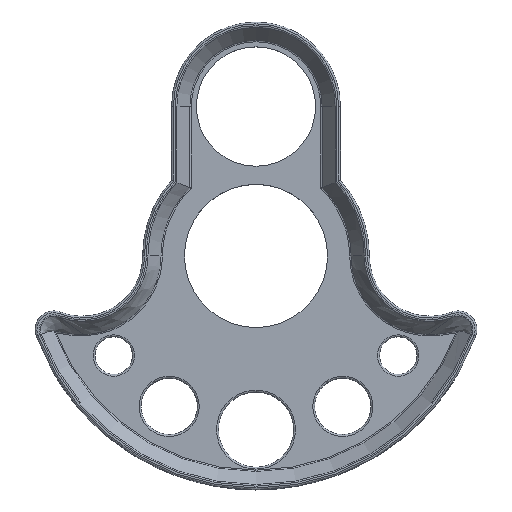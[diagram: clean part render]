
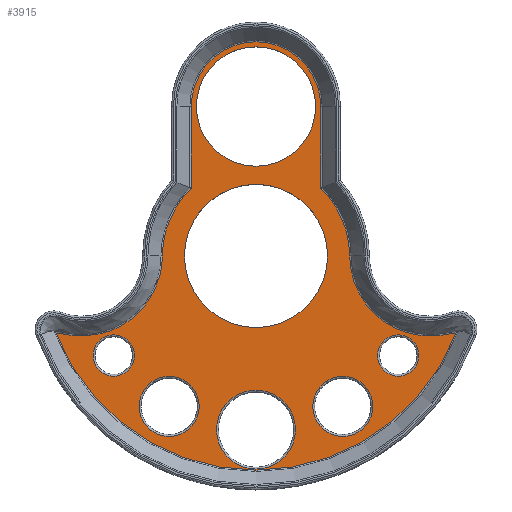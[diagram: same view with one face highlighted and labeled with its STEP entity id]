
A CAD part, top view. The second image highlights one B-rep face of the part: STEP entity #3915.
In plain terms, the highlighted planar face has unit normal (0, 0, 1).
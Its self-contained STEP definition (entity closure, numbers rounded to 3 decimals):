
#84=CARTESIAN_POINT('',(3.81,0.,1.146));
#85=VERTEX_POINT('',#84);
#86=CARTESIAN_POINT('',(0.0,0.0,1.146));
#87=DIRECTION('',(0.0,0.0,-1.0));
#88=DIRECTION('',(-1.0,0.0,0.0));
#89=AXIS2_PLACEMENT_3D('',#86,#87,#88);
#90=CIRCLE('',#89,3.81);
#91=EDGE_CURVE('',#85,#85,#90,.T.);
#3335=CARTESIAN_POINT('',(3.446,3.598,1.146));
#3336=VERTEX_POINT('',#3335);
#3337=CARTESIAN_POINT('',(4.982,0.,1.146));
#3338=VERTEX_POINT('',#3337);
#3339=CARTESIAN_POINT('',(3.446,3.598,1.146));
#3340=CARTESIAN_POINT('',(4.409,2.677,1.146));
#3341=CARTESIAN_POINT('',(4.982,1.332,1.146));
#3342=CARTESIAN_POINT('',(4.982,0.,1.146));
#3343=B_SPLINE_CURVE_WITH_KNOTS('',3,(#3339,#3340,#3341,#3342),.UNSPECIFIED.,.F.,.U.,(4,4),(-0.4,0.0),.UNSPECIFIED.);
#3344=EDGE_CURVE('',#3336,#3338,#3343,.T.);
#3376=CARTESIAN_POINT('',(-3.446,7.95,1.146));
#3377=VERTEX_POINT('',#3376);
#3386=CARTESIAN_POINT('',(-3.446,3.598,1.146));
#3387=VERTEX_POINT('',#3386);
#3401=CARTESIAN_POINT('',(-3.446,3.598,1.146));
#3402=DIRECTION('',(0.0,1.0,0.0));
#3403=VECTOR('',#3402,4.352);
#3404=LINE('',#3401,#3403);
#3405=EDGE_CURVE('',#3387,#3377,#3404,.T.);
#3415=CARTESIAN_POINT('',(3.446,7.95,1.146));
#3416=VERTEX_POINT('',#3415);
#3426=CARTESIAN_POINT('',(0.0,7.95,1.146));
#3427=DIRECTION('',(0.0,0.0,-1.0));
#3428=DIRECTION('',(0.0,1.0,0.0));
#3429=AXIS2_PLACEMENT_3D('',#3426,#3427,#3428);
#3430=CIRCLE('',#3429,3.446);
#3431=EDGE_CURVE('',#3377,#3416,#3430,.T.);
#3443=CARTESIAN_POINT('',(3.446,7.95,1.146));
#3444=DIRECTION('',(0.0,-1.0,0.0));
#3445=VECTOR('',#3444,4.352);
#3446=LINE('',#3443,#3445);
#3447=EDGE_CURVE('',#3416,#3336,#3446,.T.);
#3503=CARTESIAN_POINT('',(-10.633,-4.099,1.146));
#3504=VERTEX_POINT('',#3503);
#3505=CARTESIAN_POINT('',(-9.162,-4.247,1.146));
#3506=VERTEX_POINT('',#3505);
#3507=CARTESIAN_POINT('',(-10.633,-4.099,1.146));
#3508=CARTESIAN_POINT('',(-10.592,-4.107,1.146));
#3509=CARTESIAN_POINT('',(-10.429,-4.135,1.146));
#3510=CARTESIAN_POINT('',(-10.103,-4.187,1.146));
#3511=CARTESIAN_POINT('',(-9.655,-4.239,1.146));
#3512=CARTESIAN_POINT('',(-9.326,-4.25,1.146));
#3513=CARTESIAN_POINT('',(-9.162,-4.247,1.146));
#3514=B_SPLINE_CURVE_WITH_KNOTS('',3,(#3507,#3508,#3509,#3510,#3511,#3512,#3513),.UNSPECIFIED.,.F.,.U.,(4,1,1,1,4),(-0.148,-0.135,-0.098,-0.049,0.0),.UNSPECIFIED.);
#3515=EDGE_CURVE('',#3504,#3506,#3514,.T.);
#3593=CARTESIAN_POINT('',(-4.982,0.,1.146));
#3594=VERTEX_POINT('',#3593);
#3613=CARTESIAN_POINT('',(-9.162,-4.247,1.146));
#3614=CARTESIAN_POINT('',(-8.224,-4.232,1.146));
#3615=CARTESIAN_POINT('',(-6.024,-3.44,1.146));
#3616=CARTESIAN_POINT('',(-4.982,-1.251,1.146));
#3617=CARTESIAN_POINT('',(-4.982,0.,1.146));
#3618=B_SPLINE_CURVE_WITH_KNOTS('',3,(#3613,#3614,#3615,#3616,#3617),.UNSPECIFIED.,.F.,.U.,(4,1,4),(-0.657,-0.375,0.0),.UNSPECIFIED.);
#3619=EDGE_CURVE('',#3506,#3594,#3618,.T.);
#3649=CARTESIAN_POINT('',(-4.982,0.,1.146));
#3650=CARTESIAN_POINT('',(-4.982,1.332,1.146));
#3651=CARTESIAN_POINT('',(-4.409,2.677,1.146));
#3652=CARTESIAN_POINT('',(-3.446,3.598,1.146));
#3653=B_SPLINE_CURVE_WITH_KNOTS('',3,(#3649,#3650,#3651,#3652),.UNSPECIFIED.,.F.,.U.,(4,4),(-0.396,0.003),.UNSPECIFIED.);
#3654=EDGE_CURVE('',#3594,#3387,#3653,.T.);
#3682=CARTESIAN_POINT('',(9.162,-4.247,1.146));
#3683=VERTEX_POINT('',#3682);
#3693=CARTESIAN_POINT('',(4.982,0.,1.146));
#3694=CARTESIAN_POINT('',(4.982,-1.252,1.146));
#3695=CARTESIAN_POINT('',(6.029,-3.445,1.146));
#3696=CARTESIAN_POINT('',(8.223,-4.232,1.146));
#3697=CARTESIAN_POINT('',(9.162,-4.247,1.146));
#3698=B_SPLINE_CURVE_WITH_KNOTS('',3,(#3693,#3694,#3695,#3696,#3697),.UNSPECIFIED.,.F.,.U.,(4,1,4),(-0.657,-0.282,0.0),.UNSPECIFIED.);
#3699=EDGE_CURVE('',#3338,#3683,#3698,.T.);
#3756=CARTESIAN_POINT('',(10.633,-4.099,1.146));
#3757=VERTEX_POINT('',#3756);
#3758=CARTESIAN_POINT('',(9.162,-4.247,1.146));
#3759=CARTESIAN_POINT('',(9.326,-4.25,1.146));
#3760=CARTESIAN_POINT('',(9.655,-4.239,1.146));
#3761=CARTESIAN_POINT('',(10.103,-4.188,1.146));
#3762=CARTESIAN_POINT('',(10.429,-4.136,1.146));
#3763=CARTESIAN_POINT('',(10.592,-4.107,1.146));
#3764=CARTESIAN_POINT('',(10.633,-4.1,1.146));
#3765=B_SPLINE_CURVE_WITH_KNOTS('',3,(#3758,#3759,#3760,#3761,#3762,#3763,#3764),.UNSPECIFIED.,.F.,.U.,(4,1,1,1,4),(-0.172,-0.123,-0.074,-0.037,-0.024),.UNSPECIFIED.);
#3766=EDGE_CURVE('',#3683,#3757,#3765,.T.);
#3810=CARTESIAN_POINT('',(0.0,0.0,1.146));
#3811=DIRECTION('',(0.0,0.0,-1.0));
#3812=DIRECTION('',(0.0,-1.0,0.0));
#3813=AXIS2_PLACEMENT_3D('',#3810,#3811,#3812);
#3814=CIRCLE('',#3813,11.396);
#3815=EDGE_CURVE('',#3757,#3504,#3814,.T.);
#3829=CARTESIAN_POINT('',(0.,-1.461,1.146));
#3830=DIRECTION('',(0.0,0.0,1.0));
#3831=DIRECTION('',(1.0,0.0,0.0));
#3832=AXIS2_PLACEMENT_3D('',#3829,#3830,#3831);
#3833=PLANE('',#3832);
#3834=ORIENTED_EDGE('',*,*,#3515,.F.);
#3835=ORIENTED_EDGE('',*,*,#3815,.F.);
#3836=ORIENTED_EDGE('',*,*,#3766,.F.);
#3837=ORIENTED_EDGE('',*,*,#3699,.F.);
#3838=ORIENTED_EDGE('',*,*,#3344,.F.);
#3839=ORIENTED_EDGE('',*,*,#3447,.F.);
#3840=ORIENTED_EDGE('',*,*,#3431,.F.);
#3841=ORIENTED_EDGE('',*,*,#3405,.F.);
#3842=ORIENTED_EDGE('',*,*,#3654,.F.);
#3843=ORIENTED_EDGE('',*,*,#3619,.F.);
#3844=EDGE_LOOP('',(#3834,#3835,#3836,#3837,#3838,#3839,#3840,#3841,#3842,#3843));
#3845=FACE_OUTER_BOUND('',#3844,.T.);
#3846=ORIENTED_EDGE('',*,*,#91,.T.);
#3847=EDGE_LOOP('',(#3846));
#3848=FACE_BOUND('',#3847,.T.);
#3849=CARTESIAN_POINT('',(8.668,-5.299,1.146));
#3850=VERTEX_POINT('',#3849);
#3851=CARTESIAN_POINT('',(7.568,-5.299,1.146));
#3852=DIRECTION('',(0.0,0.0,1.0));
#3853=DIRECTION('',(-1.0,0.0,0.0));
#3854=AXIS2_PLACEMENT_3D('',#3851,#3852,#3853);
#3855=CIRCLE('',#3854,1.1);
#3856=EDGE_CURVE('',#3850,#3850,#3855,.T.);
#3857=ORIENTED_EDGE('',*,*,#3856,.F.);
#3858=EDGE_LOOP('',(#3857));
#3859=FACE_BOUND('',#3858,.T.);
#3860=CARTESIAN_POINT('',(2.1,-9.239,1.146));
#3861=VERTEX_POINT('',#3860);
#3862=CARTESIAN_POINT('',(0.0,-9.239,1.146));
#3863=DIRECTION('',(0.0,0.0,1.0));
#3864=DIRECTION('',(-1.0,0.0,0.0));
#3865=AXIS2_PLACEMENT_3D('',#3862,#3863,#3864);
#3866=CIRCLE('',#3865,2.1);
#3867=EDGE_CURVE('',#3861,#3861,#3866,.T.);
#3868=ORIENTED_EDGE('',*,*,#3867,.F.);
#3869=EDGE_LOOP('',(#3868));
#3870=FACE_BOUND('',#3869,.T.);
#3871=CARTESIAN_POINT('',(-6.468,-5.299,1.146));
#3872=VERTEX_POINT('',#3871);
#3873=CARTESIAN_POINT('',(-7.568,-5.299,1.146));
#3874=DIRECTION('',(0.0,0.0,1.0));
#3875=DIRECTION('',(-1.0,0.0,0.0));
#3876=AXIS2_PLACEMENT_3D('',#3873,#3874,#3875);
#3877=CIRCLE('',#3876,1.1);
#3878=EDGE_CURVE('',#3872,#3872,#3877,.T.);
#3879=ORIENTED_EDGE('',*,*,#3878,.F.);
#3880=EDGE_LOOP('',(#3879));
#3881=FACE_BOUND('',#3880,.T.);
#3882=CARTESIAN_POINT('',(3.175,7.95,1.146));
#3883=VERTEX_POINT('',#3882);
#3884=CARTESIAN_POINT('',(0.0,7.95,1.146));
#3885=DIRECTION('',(0.0,0.0,1.0));
#3886=DIRECTION('',(-1.0,0.0,0.0));
#3887=AXIS2_PLACEMENT_3D('',#3884,#3885,#3886);
#3888=CIRCLE('',#3887,3.175);
#3889=EDGE_CURVE('',#3883,#3883,#3888,.T.);
#3890=ORIENTED_EDGE('',*,*,#3889,.F.);
#3891=EDGE_LOOP('',(#3890));
#3892=FACE_BOUND('',#3891,.T.);
#3893=CARTESIAN_POINT('',(-3.02,-8.001,1.146));
#3894=VERTEX_POINT('',#3893);
#3895=CARTESIAN_POINT('',(-4.62,-8.001,1.146));
#3896=DIRECTION('',(0.0,0.0,1.0));
#3897=DIRECTION('',(-1.0,0.0,0.0));
#3898=AXIS2_PLACEMENT_3D('',#3895,#3896,#3897);
#3899=CIRCLE('',#3898,1.6);
#3900=EDGE_CURVE('',#3894,#3894,#3899,.T.);
#3901=ORIENTED_EDGE('',*,*,#3900,.F.);
#3902=EDGE_LOOP('',(#3901));
#3903=FACE_BOUND('',#3902,.T.);
#3904=CARTESIAN_POINT('',(6.22,-8.001,1.146));
#3905=VERTEX_POINT('',#3904);
#3906=CARTESIAN_POINT('',(4.62,-8.001,1.146));
#3907=DIRECTION('',(0.0,0.0,1.0));
#3908=DIRECTION('',(-1.0,0.0,0.0));
#3909=AXIS2_PLACEMENT_3D('',#3906,#3907,#3908);
#3910=CIRCLE('',#3909,1.6);
#3911=EDGE_CURVE('',#3905,#3905,#3910,.T.);
#3912=ORIENTED_EDGE('',*,*,#3911,.F.);
#3913=EDGE_LOOP('',(#3912));
#3914=FACE_BOUND('',#3913,.T.);
#3915=ADVANCED_FACE('',(#3845,#3848,#3859,#3870,#3881,#3892,#3903,#3914),#3833,.T.);
